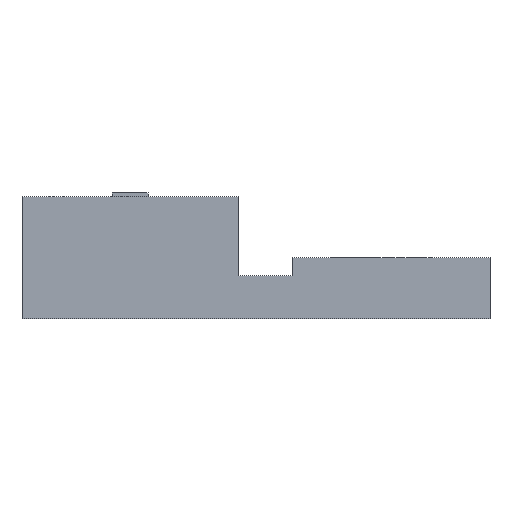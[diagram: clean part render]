
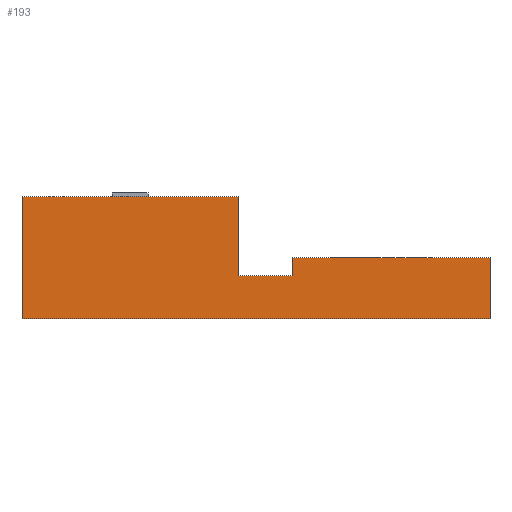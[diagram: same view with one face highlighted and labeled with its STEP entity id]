
A CAD part, left-side view. The second image highlights one B-rep face of the part: STEP entity #193.
In plain terms, the highlighted planar face has unit normal (-1, 0, 0).
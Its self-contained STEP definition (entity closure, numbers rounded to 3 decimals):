
#193=ADVANCED_FACE('',(#320),#322,.T.);
#320=FACE_BOUND('',#321,.T.);
#321=EDGE_LOOP('',(#410,#411,#412,#413,#414,#415,#416,#417));
#322=PLANE('',#323);
#323=AXIS2_PLACEMENT_3D('',#324,#325,#326);
#324=CARTESIAN_POINT('',(-3.,6.5,0.));
#325=DIRECTION('',(-1.,0.,0.));
#326=DIRECTION('',(0.,-1.,0.));
#410=ORIENTED_EDGE('',*,*,#445,.F.);
#411=ORIENTED_EDGE('',*,*,#461,.F.);
#412=ORIENTED_EDGE('',*,*,#459,.T.);
#413=ORIENTED_EDGE('',*,*,#457,.T.);
#414=ORIENTED_EDGE('',*,*,#453,.F.);
#415=ORIENTED_EDGE('',*,*,#452,.T.);
#416=ORIENTED_EDGE('',*,*,#449,.T.);
#417=ORIENTED_EDGE('',*,*,#448,.T.);
#445=EDGE_CURVE('',#504,#506,#507,.T.);
#448=EDGE_CURVE('',#509,#506,#511,.T.);
#449=EDGE_CURVE('',#512,#509,#513,.F.);
#452=EDGE_CURVE('',#515,#512,#517,.F.);
#453=EDGE_CURVE('',#515,#518,#519,.T.);
#457=EDGE_CURVE('',#523,#518,#525,.T.);
#459=EDGE_CURVE('',#526,#523,#528,.T.);
#461=EDGE_CURVE('',#526,#504,#531,.T.);
#504=VERTEX_POINT('',#622);
#506=VERTEX_POINT('',#626);
#507=LINE('',#627,#628);
#509=VERTEX_POINT('',#633);
#511=LINE('',#637,#638);
#512=VERTEX_POINT('',#640);
#513=LINE('',#641,#642);
#515=VERTEX_POINT('',#647);
#517=LINE('',#651,#652);
#518=VERTEX_POINT('',#654);
#519=LINE('',#655,#656);
#523=VERTEX_POINT('',#666);
#525=LINE('',#670,#671);
#526=VERTEX_POINT('',#673);
#528=LINE('',#677,#678);
#531=LINE('',#685,#686);
#622=CARTESIAN_POINT('',(-3.,6.5,3.4));
#626=CARTESIAN_POINT('',(-3.,0.5,3.4));
#627=CARTESIAN_POINT('',(-3.,6.5,3.4));
#628=VECTOR('',#629,1.);
#629=DIRECTION('',(0.,-1.,0.));
#633=CARTESIAN_POINT('',(-3.,0.5,1.2));
#637=CARTESIAN_POINT('',(-3.,0.5,1.2));
#638=VECTOR('',#639,1.);
#639=DIRECTION('',(0.,0.,1.));
#640=CARTESIAN_POINT('',(-3.,-1.,1.2));
#641=CARTESIAN_POINT('',(-3.,0.5,1.2));
#642=VECTOR('',#643,1.);
#643=DIRECTION('',(0.,-1.,0.));
#647=CARTESIAN_POINT('',(-3.,-1.,1.7));
#651=CARTESIAN_POINT('',(-3.,-1.,1.2));
#652=VECTOR('',#653,1.);
#653=DIRECTION('',(0.,0.,1.));
#654=CARTESIAN_POINT('',(-3.,-6.5,1.7));
#655=CARTESIAN_POINT('',(-3.,-1.,1.7));
#656=VECTOR('',#657,1.);
#657=DIRECTION('',(0.,-1.,0.));
#666=CARTESIAN_POINT('',(-3.,-6.5,0.));
#670=CARTESIAN_POINT('',(-3.,-6.5,0.));
#671=VECTOR('',#672,1.);
#672=DIRECTION('',(0.,0.,1.));
#673=CARTESIAN_POINT('',(-3.,6.5,0.));
#677=CARTESIAN_POINT('',(-3.,6.5,0.));
#678=VECTOR('',#679,1.);
#679=DIRECTION('',(0.,-1.,0.));
#685=CARTESIAN_POINT('',(-3.,6.5,0.));
#686=VECTOR('',#687,1.);
#687=DIRECTION('',(0.,0.,1.));
